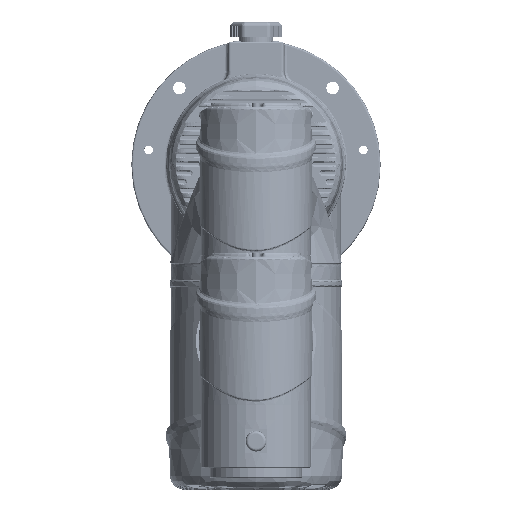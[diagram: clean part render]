
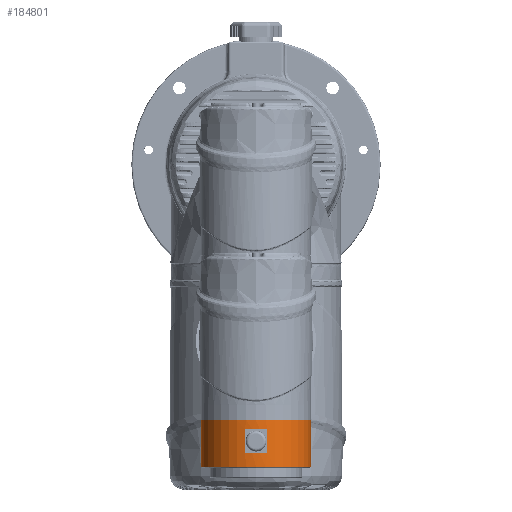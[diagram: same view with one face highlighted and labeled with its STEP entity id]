
A CAD part, top view. The second image highlights one B-rep face of the part: STEP entity #184801.
In plain terms, the highlighted cylindrical face has radius 37.5 mm (diameter 75 mm), a partial arc.
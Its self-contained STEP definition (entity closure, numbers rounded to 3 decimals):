
#9117 = CARTESIAN_POINT ( 'NONE',  ( 542.295, -36.7, 23.9 ) ) ;
#14000 = CARTESIAN_POINT ( 'NONE',  ( 557.705, -36.7, 7.9 ) ) ;
#15615 = VERTEX_POINT ( 'NONE', #73079 ) ;
#15924 = VERTEX_POINT ( 'NONE', #147725 ) ;
#16848 = CARTESIAN_POINT ( 'NONE',  ( 550., 0., 1.7 ) ) ;
#19034 = ORIENTED_EDGE ( 'NONE', *, *, #104921, .F. ) ;
#21520 = VERTEX_POINT ( 'NONE', #214976 ) ;
#30897 = DIRECTION ( 'NONE',  ( 1., 0., 0. ) ) ;
#37105 = CYLINDRICAL_SURFACE ( 'NONE', #311992, 37.5 ) ;
#38022 = CARTESIAN_POINT ( 'NONE',  ( 512.5, 0., 33.4 ) ) ;
#47747 = CARTESIAN_POINT ( 'NONE',  ( 557.705, -36.7, 23.9 ) ) ;
#48826 = CARTESIAN_POINT ( 'NONE',  ( 550., 0., 33.4 ) ) ;
#50477 = ORIENTED_EDGE ( 'NONE', *, *, #164952, .F. ) ;
#59823 = EDGE_LOOP ( 'NONE', ( #313597, #50477, #229333, #283934 ) ) ;
#59893 = LINE ( 'NONE', #103172, #345482 ) ;
#61255 = DIRECTION ( 'NONE',  ( 0., 0., -1. ) ) ;
#64786 = DIRECTION ( 'NONE',  ( 1., 0., 0. ) ) ;
#70114 = DIRECTION ( 'NONE',  ( 0., 0., 1. ) ) ;
#72226 = AXIS2_PLACEMENT_3D ( 'NONE', #48826, #302680, #242274 ) ;
#73079 = CARTESIAN_POINT ( 'NONE',  ( 542.295, -36.7, 7.9 ) ) ;
#78451 = VERTEX_POINT ( 'NONE', #38022 ) ;
#88983 = EDGE_LOOP ( 'NONE', ( #19034, #358663, #131216, #276679 ) ) ;
#103172 = CARTESIAN_POINT ( 'NONE',  ( 542.295, -36.7, 7.7 ) ) ;
#104921 = EDGE_CURVE ( 'NONE', #190968, #78451, #236008, .T. ) ;
#121222 = CARTESIAN_POINT ( 'NONE',  ( 512.5, 0., 7.7 ) ) ;
#131216 = ORIENTED_EDGE ( 'NONE', *, *, #270681, .T. ) ;
#132066 = CARTESIAN_POINT ( 'NONE',  ( 550., 0., 7.9 ) ) ;
#136038 = CARTESIAN_POINT ( 'NONE',  ( 550., 0., 7.7 ) ) ;
#147725 = CARTESIAN_POINT ( 'NONE',  ( 587.5, 0., 33.4 ) ) ;
#164952 = EDGE_CURVE ( 'NONE', #208902, #206676, #263297, .T. ) ;
#171258 = EDGE_CURVE ( 'NONE', #283152, #208902, #323640, .T. ) ;
#174519 = DIRECTION ( 'NONE',  ( 0., 0., 1. ) ) ;
#184801 = ADVANCED_FACE ( 'NONE', ( #305347, #318496 ), #37105, .T. ) ;
#189145 = LINE ( 'NONE', #305700, #340561 ) ;
#190968 = VERTEX_POINT ( 'NONE', #261775 ) ;
#195314 = AXIS2_PLACEMENT_3D ( 'NONE', #340643, #61255, #64786 ) ;
#196793 = DIRECTION ( 'NONE',  ( 0., 0., 1. ) ) ;
#197085 = CIRCLE ( 'NONE', #328266, 37.5 ) ;
#206676 = VERTEX_POINT ( 'NONE', #9117 ) ;
#207004 = VECTOR ( 'NONE', #254864, 1000. ) ;
#208902 = VERTEX_POINT ( 'NONE', #47747 ) ;
#210209 = EDGE_CURVE ( 'NONE', #15924, #78451, #325605, .T. ) ;
#214976 = CARTESIAN_POINT ( 'NONE',  ( 587.5, 0., 1.7 ) ) ;
#217620 = EDGE_CURVE ( 'NONE', #15615, #283152, #267452, .T. ) ;
#224734 = CARTESIAN_POINT ( 'NONE',  ( 557.705, -36.7, 7.7 ) ) ;
#229333 = ORIENTED_EDGE ( 'NONE', *, *, #171258, .F. ) ;
#236008 = LINE ( 'NONE', #121222, #292163 ) ;
#239842 = DIRECTION ( 'NONE',  ( 0., 0., 1. ) ) ;
#242274 = DIRECTION ( 'NONE',  ( -1., 0., 0. ) ) ;
#253883 = EDGE_CURVE ( 'NONE', #206676, #15615, #59893, .T. ) ;
#254864 = DIRECTION ( 'NONE',  ( 0., 0., 1. ) ) ;
#261775 = CARTESIAN_POINT ( 'NONE',  ( 512.5, 0., 1.7 ) ) ;
#263297 = CIRCLE ( 'NONE', #195314, 37.5 ) ;
#267452 = CIRCLE ( 'NONE', #297939, 37.5 ) ;
#268311 = DIRECTION ( 'NONE',  ( 1., 0., 0. ) ) ;
#269972 = DIRECTION ( 'NONE',  ( -1., 0., 0. ) ) ;
#270681 = EDGE_CURVE ( 'NONE', #21520, #15924, #189145, .T. ) ;
#276679 = ORIENTED_EDGE ( 'NONE', *, *, #210209, .T. ) ;
#283152 = VERTEX_POINT ( 'NONE', #14000 ) ;
#283934 = ORIENTED_EDGE ( 'NONE', *, *, #217620, .F. ) ;
#292163 = VECTOR ( 'NONE', #174519, 1000. ) ;
#293726 = EDGE_CURVE ( 'NONE', #190968, #21520, #197085, .T. ) ;
#297939 = AXIS2_PLACEMENT_3D ( 'NONE', #132066, #239842, #269972 ) ;
#299091 = DIRECTION ( 'NONE',  ( 0., 0., -1. ) ) ;
#302680 = DIRECTION ( 'NONE',  ( 0., 0., -1. ) ) ;
#304224 = DIRECTION ( 'NONE',  ( 0., 0., 1. ) ) ;
#305347 = FACE_OUTER_BOUND ( 'NONE', #88983, .T. ) ;
#305700 = CARTESIAN_POINT ( 'NONE',  ( 587.5, 0., 7.7 ) ) ;
#311992 = AXIS2_PLACEMENT_3D ( 'NONE', #136038, #304224, #30897 ) ;
#313597 = ORIENTED_EDGE ( 'NONE', *, *, #253883, .F. ) ;
#318496 = FACE_BOUND ( 'NONE', #59823, .T. ) ;
#323640 = LINE ( 'NONE', #224734, #207004 ) ;
#325605 = CIRCLE ( 'NONE', #72226, 37.5 ) ;
#328266 = AXIS2_PLACEMENT_3D ( 'NONE', #16848, #70114, #268311 ) ;
#340561 = VECTOR ( 'NONE', #196793, 1000. ) ;
#340643 = CARTESIAN_POINT ( 'NONE',  ( 550., 0., 23.9 ) ) ;
#345482 = VECTOR ( 'NONE', #299091, 1000. ) ;
#358663 = ORIENTED_EDGE ( 'NONE', *, *, #293726, .T. ) ;
